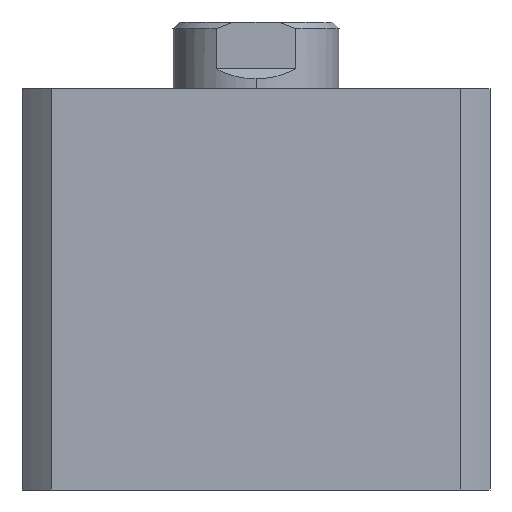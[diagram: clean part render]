
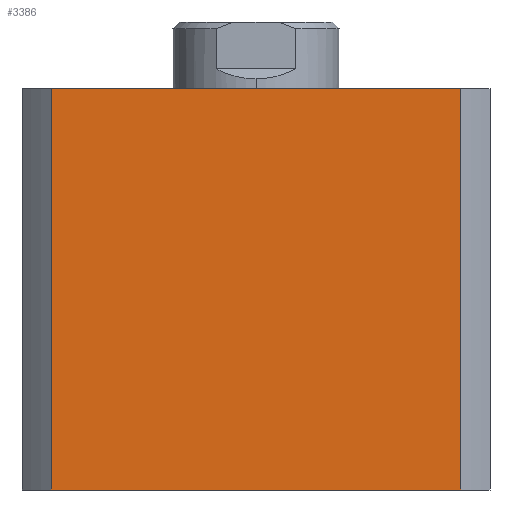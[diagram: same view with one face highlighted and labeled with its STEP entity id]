
A CAD part, left-side view. The second image highlights one B-rep face of the part: STEP entity #3386.
In plain terms, the highlighted planar face has unit normal (-1, 0, 0).
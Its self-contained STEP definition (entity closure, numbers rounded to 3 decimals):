
#214 = CARTESIAN_POINT ( 'NONE',  ( -35., 30.615, 0. ) ) ;
#449 = EDGE_CURVE ( 'NONE', #938, #1082, #2383, .T. ) ;
#588 = CARTESIAN_POINT ( 'NONE',  ( -35., 0., 60. ) ) ;
#593 = PLANE ( 'NONE',  #4303 ) ;
#596 = DIRECTION ( 'NONE',  ( 1., 0., 0. ) ) ;
#597 = DIRECTION ( 'NONE',  ( 0., 1., 0. ) ) ;
#899 = ORIENTED_EDGE ( 'NONE', *, *, #4964, .T. ) ;
#938 = VERTEX_POINT ( 'NONE', #3046 ) ;
#990 = VERTEX_POINT ( 'NONE', #2982 ) ;
#1062 = VERTEX_POINT ( 'NONE', #3137 ) ;
#1082 = VERTEX_POINT ( 'NONE', #214 ) ;
#1270 = VECTOR ( 'NONE', #2865, 1000. ) ;
#1271 = LINE ( 'NONE', #2864, #1270 ) ;
#1317 = VECTOR ( 'NONE', #2748, 1000. ) ;
#2052 = VECTOR ( 'NONE', #2735, 1000. ) ;
#2054 = LINE ( 'NONE', #2753, #1317 ) ;
#2055 = LINE ( 'NONE', #2744, #2052 ) ;
#2172 = FACE_OUTER_BOUND ( 'NONE', #4706, .T. ) ;
#2380 = VECTOR ( 'NONE', #3120, 1000. ) ;
#2383 = LINE ( 'NONE', #3131, #2380 ) ;
#2735 = DIRECTION ( 'NONE',  ( 0., -1., 0. ) ) ;
#2744 = CARTESIAN_POINT ( 'NONE',  ( -35., 0., 60. ) ) ;
#2748 = DIRECTION ( 'NONE',  ( 0., 0., -1. ) ) ;
#2753 = CARTESIAN_POINT ( 'NONE',  ( -35., -30.615, 60. ) ) ;
#2864 = CARTESIAN_POINT ( 'NONE',  ( -35., 0., 0. ) ) ;
#2865 = DIRECTION ( 'NONE',  ( 0., -1., 0. ) ) ;
#2982 = CARTESIAN_POINT ( 'NONE',  ( -35., -30.615, 60. ) ) ;
#3046 = CARTESIAN_POINT ( 'NONE',  ( -35., 30.615, 60. ) ) ;
#3120 = DIRECTION ( 'NONE',  ( 0., 0., -1. ) ) ;
#3131 = CARTESIAN_POINT ( 'NONE',  ( -35., 30.615, 60. ) ) ;
#3137 = CARTESIAN_POINT ( 'NONE',  ( -35., -30.615, 0. ) ) ;
#3386 = ADVANCED_FACE ( 'NONE', ( #2172 ), #593, .F. ) ;
#4303 = AXIS2_PLACEMENT_3D ( 'NONE', #588, #596, #597 ) ;
#4684 = ORIENTED_EDGE ( 'NONE', *, *, #449, .T. ) ;
#4687 = ORIENTED_EDGE ( 'NONE', *, *, #4928, .F. ) ;
#4706 = EDGE_LOOP ( 'NONE', ( #899, #4763, #4687, #4684 ) ) ;
#4763 = ORIENTED_EDGE ( 'NONE', *, *, #4931, .F. ) ;
#4928 = EDGE_CURVE ( 'NONE', #938, #990, #2055, .T. ) ;
#4931 = EDGE_CURVE ( 'NONE', #990, #1062, #2054, .T. ) ;
#4964 = EDGE_CURVE ( 'NONE', #1082, #1062, #1271, .T. ) ;
